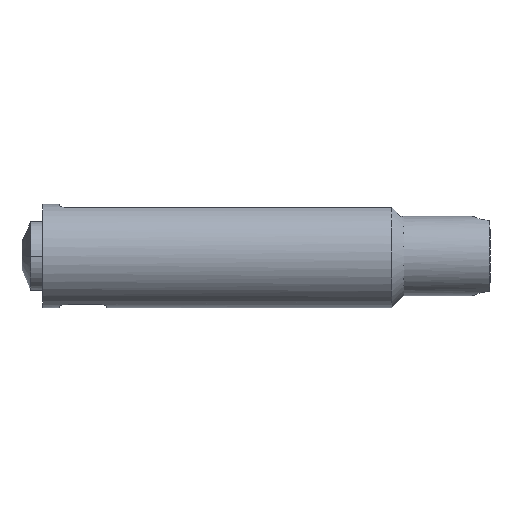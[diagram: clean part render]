
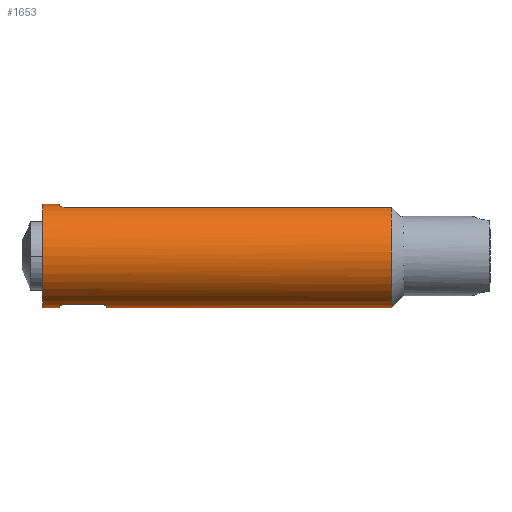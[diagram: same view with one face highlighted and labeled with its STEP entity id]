
A CAD part, left-side view. The second image highlights one B-rep face of the part: STEP entity #1653.
In plain terms, the highlighted cylindrical face has radius 3 mm (diameter 6 mm), a partial arc.
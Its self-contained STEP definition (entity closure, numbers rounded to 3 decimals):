
#36 = DIRECTION ( 'NONE',  ( 0., 1., 0. ) ) ;
#39 = VERTEX_POINT ( 'NONE', #208 ) ;
#71 = ORIENTED_EDGE ( 'NONE', *, *, #79, .F. ) ;
#79 = EDGE_CURVE ( 'NONE', #987, #2135, #2407, .T. ) ;
#83 = CARTESIAN_POINT ( 'NONE',  ( -1., -74.388, -2.828 ) ) ;
#96 = EDGE_CURVE ( 'NONE', #1256, #265, #767, .T. ) ;
#112 = CARTESIAN_POINT ( 'NONE',  ( 0., 0., 3. ) ) ;
#133 = CARTESIAN_POINT ( 'NONE',  ( -1., -1.3, -2.828 ) ) ;
#208 = CARTESIAN_POINT ( 'NONE',  ( 0., 0., -3. ) ) ;
#257 = CARTESIAN_POINT ( 'NONE',  ( -1., -74.388, 2.828 ) ) ;
#265 = VERTEX_POINT ( 'NONE', #535 ) ;
#307 = EDGE_CURVE ( 'NONE', #843, #39, #2750, .T. ) ;
#322 = EDGE_CURVE ( 'NONE', #2651, #768, #1479, .T. ) ;
#332 = ORIENTED_EDGE ( 'NONE', *, *, #485, .F. ) ;
#355 = DIRECTION ( 'NONE',  ( 0., 0., -1. ) ) ;
#403 = CARTESIAN_POINT ( 'NONE',  ( -0.855, -1.031, 2.876 ) ) ;
#408 = ORIENTED_EDGE ( 'NONE', *, *, #2744, .F. ) ;
#410 = DIRECTION ( 'NONE',  ( 0., -1., 0. ) ) ;
#436 = AXIS2_PLACEMENT_3D ( 'NONE', #2597, #2812, #547 ) ;
#453 = CARTESIAN_POINT ( 'NONE',  ( 0., -74.388, 3. ) ) ;
#474 = CARTESIAN_POINT ( 'NONE',  ( -1., -3.481, -2.828 ) ) ;
#485 = EDGE_CURVE ( 'NONE', #1185, #2157, #579, .T. ) ;
#527 = CIRCLE ( 'NONE', #2218, 3. ) ;
#535 = CARTESIAN_POINT ( 'NONE',  ( -1., -1.3, 2.828 ) ) ;
#547 = DIRECTION ( 'NONE',  ( 0., 0., -1. ) ) ;
#549 = CARTESIAN_POINT ( 'NONE',  ( 0., -1., -3. ) ) ;
#571 = ORIENTED_EDGE ( 'NONE', *, *, #2538, .F. ) ;
#577 = DIRECTION ( 'NONE',  ( 0., -1., 0. ) ) ;
#579 = CIRCLE ( 'NONE', #681, 3. ) ;
#585 = CARTESIAN_POINT ( 'NONE',  ( -0.7, -1., 2.917 ) ) ;
#592 = ORIENTED_EDGE ( 'NONE', *, *, #96, .F. ) ;
#614 = ORIENTED_EDGE ( 'NONE', *, *, #2398, .F. ) ;
#623 = EDGE_CURVE ( 'NONE', #920, #2721, #1455, .T. ) ;
#627 = DIRECTION ( 'NONE',  ( 0., -1., 0. ) ) ;
#658 = ORIENTED_EDGE ( 'NONE', *, *, #623, .F. ) ;
#666 = CARTESIAN_POINT ( 'NONE',  ( -0.7, -1., -2.917 ) ) ;
#681 = AXIS2_PLACEMENT_3D ( 'NONE', #2007, #855, #355 ) ;
#709 = ORIENTED_EDGE ( 'NONE', *, *, #1825, .F. ) ;
#718 = DIRECTION ( 'NONE',  ( 0., -1., 0. ) ) ;
#767 = B_SPLINE_CURVE_WITH_KNOTS ( 'NONE', 3,
 ( #852, #2944, #403, #2018, #2926, #1794 ),
 .UNSPECIFIED., .F., .F.,
 ( 4, 2, 4 ),
 ( 0., 0., 0. ),
 .UNSPECIFIED. ) ;
#768 = VERTEX_POINT ( 'NONE', #1359 ) ;
#772 = DIRECTION ( 'NONE',  ( 0., 0., 1. ) ) ;
#843 = VERTEX_POINT ( 'NONE', #112 ) ;
#852 = CARTESIAN_POINT ( 'NONE',  ( -0.7, -1., 2.917 ) ) ;
#854 = CARTESIAN_POINT ( 'NONE',  ( 0., -74.388, -3. ) ) ;
#855 = DIRECTION ( 'NONE',  ( 0., -1., 0. ) ) ;
#891 = LINE ( 'NONE', #453, #2361 ) ;
#920 = VERTEX_POINT ( 'NONE', #965 ) ;
#953 = B_SPLINE_CURVE_WITH_KNOTS ( 'NONE', 3,
 ( #2068, #1872, #2092, #2757, #474, #1122 ),
 .UNSPECIFIED., .F., .F.,
 ( 4, 2, 4 ),
 ( 0., 0., 0. ),
 .UNSPECIFIED. ) ;
#954 = DIRECTION ( 'NONE',  ( 0., -1., 0. ) ) ;
#965 = CARTESIAN_POINT ( 'NONE',  ( -0.7, -1., -2.917 ) ) ;
#980 = DIRECTION ( 'NONE',  ( 0., -1., 0. ) ) ;
#987 = VERTEX_POINT ( 'NONE', #2085 ) ;
#1029 = ORIENTED_EDGE ( 'NONE', *, *, #2093, .T. ) ;
#1054 = CARTESIAN_POINT ( 'NONE',  ( -1., -1.219, -2.828 ) ) ;
#1086 = LINE ( 'NONE', #2244, #1340 ) ;
#1091 = CARTESIAN_POINT ( 'NONE',  ( -0.966, -1.141, -2.841 ) ) ;
#1122 = CARTESIAN_POINT ( 'NONE',  ( -1., -3.4, -2.828 ) ) ;
#1135 = DIRECTION ( 'NONE',  ( 0., 1., 0. ) ) ;
#1181 = CARTESIAN_POINT ( 'NONE',  ( 0., -1., 0. ) ) ;
#1185 = VERTEX_POINT ( 'NONE', #1716 ) ;
#1195 = DIRECTION ( 'NONE',  ( 0., 0., 1. ) ) ;
#1256 = VERTEX_POINT ( 'NONE', #585 ) ;
#1339 = CARTESIAN_POINT ( 'NONE',  ( -0.779, -1., -2.898 ) ) ;
#1340 = VECTOR ( 'NONE', #577, 1000. ) ;
#1359 = CARTESIAN_POINT ( 'NONE',  ( -1., -1.3, -2.828 ) ) ;
#1412 = ORIENTED_EDGE ( 'NONE', *, *, #1742, .F. ) ;
#1455 = CIRCLE ( 'NONE', #2271, 3. ) ;
#1479 = LINE ( 'NONE', #83, #2507 ) ;
#1530 = CARTESIAN_POINT ( 'NONE',  ( 0., -1., 3. ) ) ;
#1545 = CYLINDRICAL_SURFACE ( 'NONE', #2704, 3. ) ;
#1596 = VECTOR ( 'NONE', #980, 1000. ) ;
#1649 = B_SPLINE_CURVE_WITH_KNOTS ( 'NONE', 3,
 ( #133, #1054, #1091, #2011, #1339, #666 ),
 .UNSPECIFIED., .F., .F.,
 ( 4, 2, 4 ),
 ( 0., 0., 0. ),
 .UNSPECIFIED. ) ;
#1653 = ADVANCED_FACE ( 'NONE', ( #1975 ), #1545, .T. ) ;
#1666 = VERTEX_POINT ( 'NONE', #1530 ) ;
#1677 = CARTESIAN_POINT ( 'NONE',  ( 0., -1., 0. ) ) ;
#1716 = CARTESIAN_POINT ( 'NONE',  ( -1., -20.3, 2.828 ) ) ;
#1742 = EDGE_CURVE ( 'NONE', #2135, #2651, #953, .T. ) ;
#1794 = CARTESIAN_POINT ( 'NONE',  ( -1., -1.3, 2.828 ) ) ;
#1825 = EDGE_CURVE ( 'NONE', #1666, #1256, #527, .T. ) ;
#1872 = CARTESIAN_POINT ( 'NONE',  ( -0.779, -3.7, -2.898 ) ) ;
#1895 = ORIENTED_EDGE ( 'NONE', *, *, #1968, .T. ) ;
#1927 = LINE ( 'NONE', #854, #2908 ) ;
#1968 = EDGE_CURVE ( 'NONE', #987, #2157, #1927, .T. ) ;
#1975 = FACE_OUTER_BOUND ( 'NONE', #2213, .T. ) ;
#2007 = CARTESIAN_POINT ( 'NONE',  ( 0., -20.3, 0. ) ) ;
#2011 = CARTESIAN_POINT ( 'NONE',  ( -0.855, -1.032, -2.876 ) ) ;
#2018 = CARTESIAN_POINT ( 'NONE',  ( -0.966, -1.141, 2.841 ) ) ;
#2026 = DIRECTION ( 'NONE',  ( 0., -1., 0. ) ) ;
#2068 = CARTESIAN_POINT ( 'NONE',  ( -0.7, -3.7, -2.917 ) ) ;
#2085 = CARTESIAN_POINT ( 'NONE',  ( 0., -3.7, -3. ) ) ;
#2092 = CARTESIAN_POINT ( 'NONE',  ( -0.855, -3.669, -2.876 ) ) ;
#2093 = EDGE_CURVE ( 'NONE', #39, #2721, #1086, .T. ) ;
#2121 = AXIS2_PLACEMENT_3D ( 'NONE', #2691, #1135, #2911 ) ;
#2135 = VERTEX_POINT ( 'NONE', #2878 ) ;
#2157 = VERTEX_POINT ( 'NONE', #2890 ) ;
#2213 = EDGE_LOOP ( 'NONE', ( #614, #2541, #1029, #658, #408, #2846, #1412, #71, #1895, #332, #571, #592, #709 ) ) ;
#2218 = AXIS2_PLACEMENT_3D ( 'NONE', #1181, #718, #1195 ) ;
#2236 = CARTESIAN_POINT ( 'NONE',  ( -1., -3.4, -2.828 ) ) ;
#2237 = DIRECTION ( 'NONE',  ( 0., 0., -1. ) ) ;
#2244 = CARTESIAN_POINT ( 'NONE',  ( 0., -74.388, -3. ) ) ;
#2271 = AXIS2_PLACEMENT_3D ( 'NONE', #1677, #954, #772 ) ;
#2336 = LINE ( 'NONE', #257, #1596 ) ;
#2361 = VECTOR ( 'NONE', #2026, 1000. ) ;
#2398 = EDGE_CURVE ( 'NONE', #843, #1666, #891, .T. ) ;
#2407 = CIRCLE ( 'NONE', #2121, 3. ) ;
#2507 = VECTOR ( 'NONE', #36, 1000. ) ;
#2538 = EDGE_CURVE ( 'NONE', #265, #1185, #2336, .T. ) ;
#2541 = ORIENTED_EDGE ( 'NONE', *, *, #307, .T. ) ;
#2597 = CARTESIAN_POINT ( 'NONE',  ( 0., 0., 0. ) ) ;
#2651 = VERTEX_POINT ( 'NONE', #2236 ) ;
#2691 = CARTESIAN_POINT ( 'NONE',  ( 0., -3.7, 0. ) ) ;
#2704 = AXIS2_PLACEMENT_3D ( 'NONE', #2918, #410, #2237 ) ;
#2721 = VERTEX_POINT ( 'NONE', #549 ) ;
#2744 = EDGE_CURVE ( 'NONE', #768, #920, #1649, .T. ) ;
#2750 = CIRCLE ( 'NONE', #436, 3. ) ;
#2757 = CARTESIAN_POINT ( 'NONE',  ( -0.966, -3.559, -2.841 ) ) ;
#2812 = DIRECTION ( 'NONE',  ( 0., -1., 0. ) ) ;
#2846 = ORIENTED_EDGE ( 'NONE', *, *, #322, .F. ) ;
#2878 = CARTESIAN_POINT ( 'NONE',  ( -0.7, -3.7, -2.917 ) ) ;
#2890 = CARTESIAN_POINT ( 'NONE',  ( 0., -20.3, -3. ) ) ;
#2908 = VECTOR ( 'NONE', #627, 1000. ) ;
#2911 = DIRECTION ( 'NONE',  ( 0., 0., -1. ) ) ;
#2918 = CARTESIAN_POINT ( 'NONE',  ( 0., -74.388, 0. ) ) ;
#2926 = CARTESIAN_POINT ( 'NONE',  ( -1., -1.219, 2.828 ) ) ;
#2944 = CARTESIAN_POINT ( 'NONE',  ( -0.779, -1., 2.898 ) ) ;
